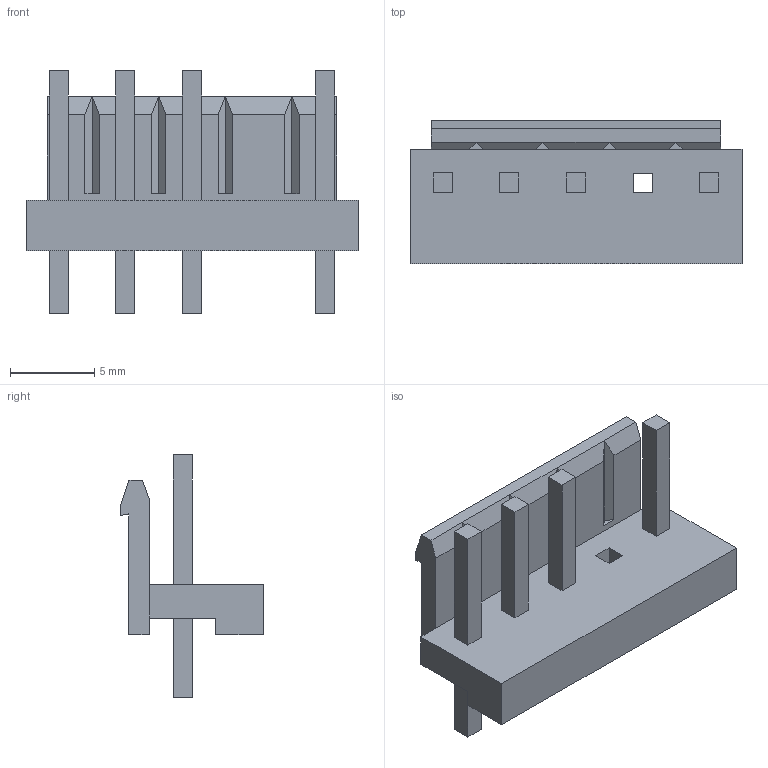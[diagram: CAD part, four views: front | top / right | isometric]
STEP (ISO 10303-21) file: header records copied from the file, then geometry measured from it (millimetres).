
FILE_DESCRIPTION((''),'2;1');
FILE_NAME('C-2-1565036-4','2014-03-25T',('workeradm'),('Tyco Electronics Ltd.'),'PRO/ENGINEER BY PARAMETRIC TECHNOLOGY CORPORATION, 2013050','PRO/ENGINEER BY PARAMETRIC TECHNOLOGY CORPORATION, 2013050','');
FILE_SCHEMA(('AUTOMOTIVE_DESIGN { 1 0 10303 214 1 1 1 1 }'));
Length unit declared in the file: millimetre
Products named in the file (1): C-2-1565036-4
Bounding box: 19.74 x 8.5 x 14.4 mm (x, y, z)
Volume: 581.9 mm3; surface area: 978.4 mm2
Topology: 1 solids, 1 shells, 80 faces, 198 edges, 128 vertices
Faces by surface type: plane 80
Entity records: 2486 total; most frequent: CARTESIAN_POINT 408, ORIENTED_EDGE 396, DIRECTION 358, VECTOR 198, LINE 198, EDGE_CURVE 198, VERTEX_POINT 128, COLOUR_RGB 126
